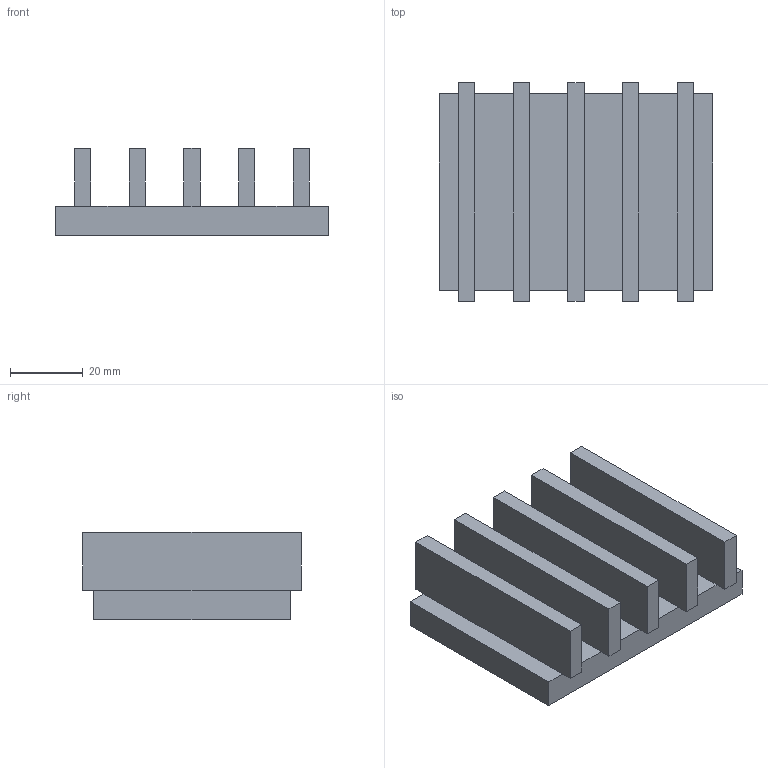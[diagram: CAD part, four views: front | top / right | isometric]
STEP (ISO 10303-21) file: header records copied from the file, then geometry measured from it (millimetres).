
FILE_DESCRIPTION(('Mechanical CAD reference from nasji.com'),'2;1');
FILE_NAME('NASJI.step','',(''),(''),'','NASJI distribution','');
FILE_SCHEMA(('AUTOMOTIVE_DESIGN { 1 0 10303 214 1 1 1 1 }'));
Length unit declared in the file: millimetre
Products named in the file (1): Open CASCADE STEP translator 7.8 90
Bounding box: 75 x 60 x 23.9 mm (x, y, z)
Volume: 53328 mm3; surface area: 20655.4 mm2
Topology: 1 solids, 1 shells, 46 faces, 112 edges, 68 vertices
Faces by surface type: plane 46
Entity records: 2762 total; most frequent: CARTESIAN_POINT 451, DIRECTION 430, LINE 336, VECTOR 336, ORIENTED_EDGE 224, PCURVE 224, DEFINITIONAL_REPRESENTATION 224, EDGE_CURVE 112
